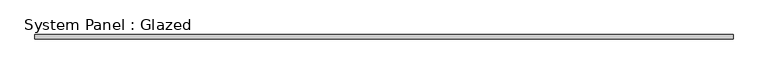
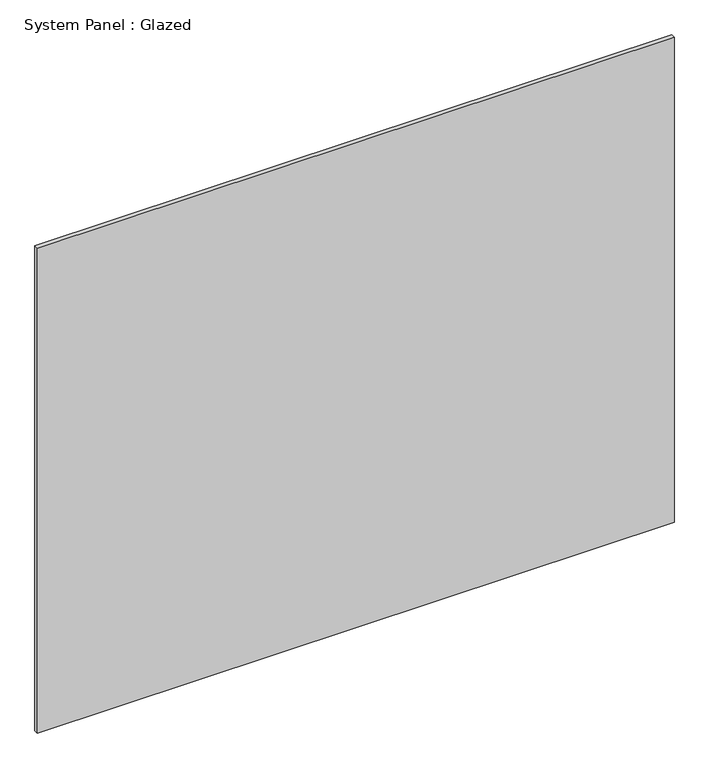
"""IFC4 building model written with IfcOpenShell, lengths in millimetres: plate geometry, System Panel : Glazed."""

import ifcopenshell
import ifcopenshell.guid

model = None  # the IFC model being written
_history = None  # IfcOwnerHistory: only IFC2X3 demands one
_inside = {}  # id of a spatial element -> (the spatial element, [elements in it])
_under = {}  # id of a project, library or spatial element -> (it, [spatial elements below it])
_declared = {}  # id of a project -> (the project, [libraries it declares])
_typed = {}  # id of a type object -> (the type object, [elements of that type])
_made_of = {}  # id of a material, layer set ... -> (it, [elements and type objects made of it])


def new_model(schema):
    """Start an empty IFC model of exactly this schema.

    Asked for "IFC4X3", IfcOpenShell would pick the latest addendum, in which some entities
    have other attributes; the version numbers below select the first issue.
    IFC2X3 requires an IfcOwnerHistory on every rooted entity: one is made here for all.
    """
    global model, _history
    if schema == "IFC4X3":
        model = ifcopenshell.file(schema_version=(4, 3, 0, 0))
    else:
        model = ifcopenshell.file(schema=schema)
    _inside.clear()
    _under.clear()
    _declared.clear()
    _typed.clear()
    _made_of.clear()
    _history = None
    if model.schema == "IFC2X3":
        org = make("IfcOrganization", Name="unknown")
        user = make(
            "IfcPersonAndOrganization",
            ThePerson=make("IfcPerson", FamilyName="unknown"),
            TheOrganization=org,
        )
        app = make(
            "IfcApplication",
            ApplicationDeveloper=org,
            Version="unknown",
            ApplicationFullName="unknown",
            ApplicationIdentifier="unknown",
        )
        _history = make(
            "IfcOwnerHistory",
            OwningUser=user,
            OwningApplication=app,
            ChangeAction="ADDED",
            CreationDate=0,
        )
    return model


def make(cls, **values):
    """One entity of the class cls with the attributes given. An attribute that is None is left unset."""
    return model.create_entity(
        cls, **{name: value for name, value in values.items() if value is not None}
    )


def rooted(cls, **values):
    """An entity with a GlobalId (a new one), such as an element, a storey or a relation."""
    return make(cls, GlobalId=ifcopenshell.guid.new(), OwnerHistory=_history, **values)


def si_unit(unit_type, name, prefix=None):
    """IfcSIUnit, for example si_unit("LENGTHUNIT", "METRE", prefix="MILLI")."""
    return make("IfcSIUnit", UnitType=unit_type, Prefix=prefix, Name=name)


def assignment(units):
    """IfcUnitAssignment: the units of a project."""
    return None if units is None else make("IfcUnitAssignment", Units=units)


def point(xyz):
    """IfcCartesianPoint."""
    return None if xyz is None else make("IfcCartesianPoint", Coordinates=xyz)


def direction(xyz):
    """IfcDirection."""
    return None if xyz is None else make("IfcDirection", DirectionRatios=xyz)


def frame(location, z_axis=None, x_axis=None):
    """IfcAxis2Placement3D, a coordinate frame: its origin and axes. An axis left out is left unset."""
    return make(
        "IfcAxis2Placement3D",
        Location=point(location),
        Axis=direction(z_axis),
        RefDirection=direction(x_axis),
    )


def origin():
    """The frame at (0, 0, 0) with its axes left unset."""
    return frame((0.0, 0.0, 0.0))


def origin_with_axes():
    """The frame at (0, 0, 0) with the z axis (0, 0, 1) and the x axis (1, 0, 0) written out."""
    return frame((0.0, 0.0, 0.0), z_axis=(0.0, 0.0, 1.0), x_axis=(1.0, 0.0, 0.0))


def place(relative_to, where):
    """IfcLocalPlacement: puts the frame where relative to a parent placement (None: the world)."""
    return make(
        "IfcLocalPlacement", PlacementRelTo=relative_to, RelativePlacement=where
    )


def context(
    kind, dimensions, precision=None, world=None, true_north=None, identifier=None
):
    """IfcGeometricRepresentationContext, for example the 3D "Model" context."""
    return make(
        "IfcGeometricRepresentationContext",
        ContextIdentifier=identifier,
        ContextType=kind,
        CoordinateSpaceDimension=dimensions,
        Precision=precision,
        WorldCoordinateSystem=world,
        TrueNorth=true_north,
    )


def project(units=None, contexts=None):
    """IfcProject with its units and contexts."""
    return rooted(
        "IfcProject",
        Name="project",
        RepresentationContexts=contexts,
        UnitsInContext=assignment(units),
    )


def spatial(cls, under=None, at=None, **own):
    """A site, building, storey or space (cls), placed at a placement, below another one or the project."""
    s = rooted(cls, ObjectPlacement=at, **own)
    if under is not None:
        _under.setdefault(under.id(), (under, []))[1].append(s)
    return s


def polyline(points):
    """IfcPolyline through the points."""
    return make("IfcPolyline", Points=[point(p) for p in points])


def outline(outer, holes=None, kind="AREA"):
    """IfcArbitraryClosedProfileDef: a profile drawn as a closed curve; with holes, ...WithVoids."""
    if holes is None:
        return make("IfcArbitraryClosedProfileDef", ProfileType=kind, OuterCurve=outer)
    return make(
        "IfcArbitraryProfileDefWithVoids",
        ProfileType=kind,
        OuterCurve=outer,
        InnerCurves=holes,
    )


def extrude(swept, where, along, depth):
    """IfcExtrudedAreaSolid: the profile swept, set in the frame where, extruded along a direction by depth."""
    return make(
        "IfcExtrudedAreaSolid",
        SweptArea=swept,
        Position=where,
        ExtrudedDirection=direction(along),
        Depth=depth,
    )


def shape(context_of_items, identifier, shape_type, items):
    """IfcShapeRepresentation: the items that make up one representation, for example the "Body"."""
    return make(
        "IfcShapeRepresentation",
        ContextOfItems=context_of_items,
        RepresentationIdentifier=identifier,
        RepresentationType=shape_type,
        Items=items,
    )


def source(mapping_origin, context_of_items, identifier, shape_type, items):
    """IfcRepresentationMap: a shape defined once, which mapped items show again and again."""
    return make(
        "IfcRepresentationMap",
        MappingOrigin=mapping_origin,
        MappedRepresentation=shape(context_of_items, identifier, shape_type, items),
    )


def transform(
    local_origin,
    x_axis=None,
    y_axis=None,
    z_axis=None,
    scale=None,
    scale2=None,
    scale3=None,
    uniform=True,
):
    """IfcCartesianTransformationOperator3D, or its non-uniform kind. x_axis, y_axis, z_axis: its Axis1, 2, 3."""
    if uniform:
        return make(
            "IfcCartesianTransformationOperator3D",
            Axis1=direction(x_axis),
            Axis2=direction(y_axis),
            LocalOrigin=point(local_origin),
            Scale=scale,
            Axis3=direction(z_axis),
        )
    return make(
        "IfcCartesianTransformationOperator3DnonUniform",
        Axis1=direction(x_axis),
        Axis2=direction(y_axis),
        LocalOrigin=point(local_origin),
        Scale=scale,
        Axis3=direction(z_axis),
        Scale2=scale2,
        Scale3=scale3,
    )


def mapped(mapping_source, mapping_target):
    """IfcMappedItem: shows the shape of a source again, moved by a transform."""
    return make(
        "IfcMappedItem", MappingSource=mapping_source, MappingTarget=mapping_target
    )


def made_of(thing, what):
    """Note that an element or type object is made of a material, layer set ...; save() writes the relation."""
    if what is not None:
        _made_of.setdefault(what.id(), (what, []))[1].append(thing)
    return thing


def element(
    cls,
    number,
    at=None,
    inside=None,
    cuts=None,
    type_object=None,
    material=None,
    context=None,
    identifier="Body",
    shape_type=None,
    held_by="IfcProductDefinitionShape",
    body=None,
    shapes=None,
    **own,
):
    """One element of the class cls, such as IfcWall. Its Tag is "e" and its number.

    at: its placement. inside: the storey or other place that contains it. cuts: it is an
    opening in that element (IfcRelVoidsElement). A single representation is given by context,
    identifier, shape_type and body (its items); several are given by shapes. held_by: the class
    of the entity that holds the representations. save() writes the other relations.
    """
    e = rooted(cls, Tag="e%d" % number, ObjectPlacement=at, **own)
    if body is not None:
        shapes = [shape(context, identifier, shape_type, body)]
    if shapes is not None:
        e.Representation = make(held_by, Representations=shapes)
    if inside is not None:
        _inside.setdefault(inside.id(), (inside, []))[1].append(e)
    if cuts is not None:
        rooted(
            "IfcRelVoidsElement", RelatingBuildingElement=cuts, RelatedOpeningElement=e
        )
    if type_object is not None:
        _typed.setdefault(type_object.id(), (type_object, []))[1].append(e)
    return made_of(e, material)


def aggregate(whole, parts):
    """IfcRelAggregates: a whole, such as a stair, and the parts it consists of."""
    return rooted("IfcRelAggregates", RelatingObject=whole, RelatedObjects=parts)


def save(model, path):
    """Write the relations noted so far, then the file.

    IfcRelAggregates (storeys below a building ...), IfcRelContainedInSpatialStructure (elements
    in a storey), IfcRelDefinesByType, IfcRelAssociatesMaterial and IfcRelDeclares: one each for
    every whole, place, type object, material and project.
    """
    for whole, parts in _under.values():
        aggregate(whole, parts)
    for where, things in _inside.values():
        rooted(
            "IfcRelContainedInSpatialStructure",
            RelatedElements=things,
            RelatingStructure=where,
        )
    for kind, things in _typed.values():
        rooted("IfcRelDefinesByType", RelatedObjects=things, RelatingType=kind)
    for what, things in _made_of.values():
        rooted("IfcRelAssociatesMaterial", RelatedObjects=things, RelatingMaterial=what)
    for by, libraries in _declared.values():
        rooted("IfcRelDeclares", RelatingContext=by, RelatedDefinitions=libraries)
    model.write(path)


def system_panel_glazed_7da84705(model_context):
    return source(origin(), model_context, "Body", "SweptSolid", [
        extrude(outline(polyline([(1925.0, 24.5), (-1925.0, 24.5), (-1925.0, 49.5), (1925.0, 49.5), (1925.0, 24.5)])), origin_with_axes(), (0.0, 0.0, 1.0), 3100.0),
    ])


if __name__ == "__main__":
    model = new_model("IFC4")
    model_context = context("Model", 3, world=origin())
    ifc_project = project(units=[si_unit("LENGTHUNIT", "METRE", prefix="MILLI")], contexts=[model_context])
    site = spatial("IfcSite", under=ifc_project)
    building = spatial("IfcBuilding", under=site)
    placement = place(None, origin())
    system_panel_glazed_shape = system_panel_glazed_7da84705(model_context)
    element("IfcPlate", 1, ObjectType="System Panel : Glazed", at=placement, inside=building, context=model_context, shape_type="MappedRepresentation", body=[
        mapped(system_panel_glazed_shape, transform((0.0, 0.0, 0.0), x_axis=(1.0, 0.0, 0.0), y_axis=(0.0, 1.0, 0.0), z_axis=(0.0, 0.0, 1.0))),
    ])
    save(model, "model.ifc")
